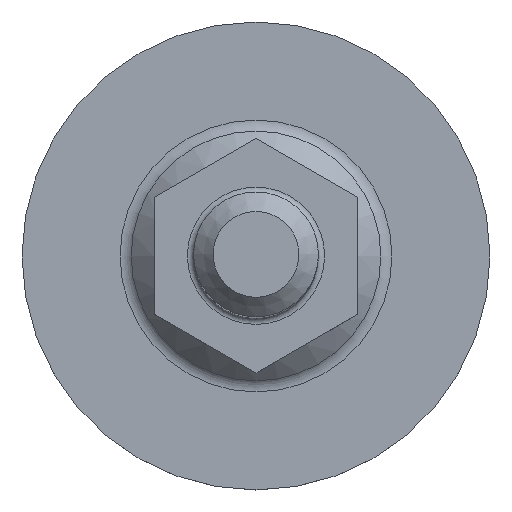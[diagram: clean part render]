
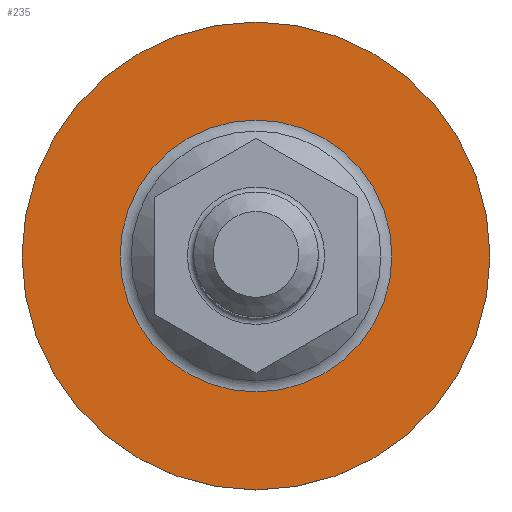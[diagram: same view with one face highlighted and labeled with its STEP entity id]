
A CAD part, top view. The second image highlights one B-rep face of the part: STEP entity #235.
In plain terms, the highlighted planar face has unit normal (0, 0, 1).
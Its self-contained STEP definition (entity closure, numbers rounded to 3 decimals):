
#235=ADVANCED_FACE('',(#373,#375),#377,.T.);
#373=FACE_BOUND('',#374,.T.);
#374=EDGE_LOOP('',(#925));
#375=FACE_BOUND('',#376,.T.);
#376=EDGE_LOOP('',(#926));
#377=PLANE('',#378);
#378=AXIS2_PLACEMENT_3D('',#379,#380,#381);
#379=CARTESIAN_POINT('',(0.,0.,1.2));
#380=DIRECTION('',(0.,0.,1.));
#381=DIRECTION('',(-1.,0.,0.));
#925=ORIENTED_EDGE('',*,*,#1130,.T.);
#926=ORIENTED_EDGE('',*,*,#1128,.F.);
#1128=EDGE_CURVE('',#1244,#1244,#1245,.T.);
#1130=EDGE_CURVE('',#1248,#1248,#1249,.T.);
#1244=VERTEX_POINT('',#1459);
#1245=CIRCLE('',#1460,8.714);
#1248=VERTEX_POINT('',#1469);
#1249=CIRCLE('',#1470,15.);
#1459=CARTESIAN_POINT('',(-8.714,0.,1.2));
#1460=AXIS2_PLACEMENT_3D('',#1461,#1462,#1463);
#1461=CARTESIAN_POINT('',(0.,0.,1.2));
#1462=DIRECTION('',(0.,0.,1.));
#1463=DIRECTION('',(-1.,0.,0.));
#1469=CARTESIAN_POINT('',(-15.,0.,1.2));
#1470=AXIS2_PLACEMENT_3D('',#1471,#1472,#1473);
#1471=CARTESIAN_POINT('',(0.,0.,1.2));
#1472=DIRECTION('',(0.,0.,1.));
#1473=DIRECTION('',(-1.,0.,0.));
